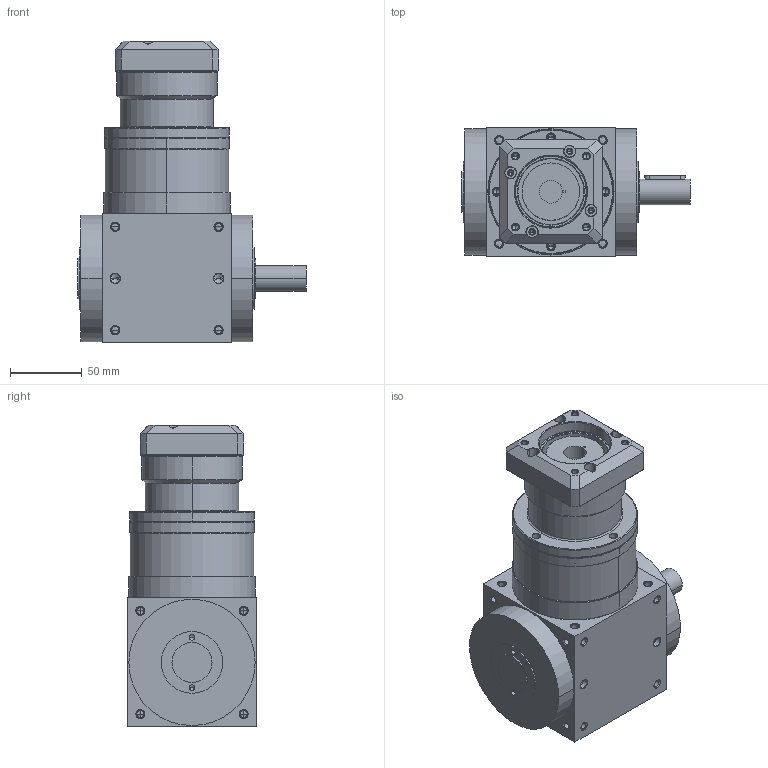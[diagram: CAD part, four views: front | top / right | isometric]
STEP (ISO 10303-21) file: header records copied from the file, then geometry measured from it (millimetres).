
FILE_DESCRIPTION((''),'2;1');
FILE_NAME('ATB090FR12-P0405200304_ASM','2014-07-30T',('d01544'),('APEX'),'PRO/ENGINEER BY PARAMETRIC TECHNOLOGY CORPORATION, 2008410','PRO/ENGINEER BY PARAMETRIC TECHNOLOGY CORPORATION, 2008410','');
FILE_SCHEMA(('CONFIG_CONTROL_DESIGN'));
Length unit declared in the file: millimetre
Products named in the file (5): ATBFR1-HOUSING-2-4; P1820400001; P0226400001; P0405200304; ATB090FR12-P0405200304_ASM
Assembly tree (4 placements, depth 2):
  ATB090FR12-P0405200304_ASM
    ATBFR1-HOUSING-2-4
    P1820400001
    P0226400001
    P0405200304
Bounding box: 159 x 90 x 210.5 mm (x, y, z)
Volume: 1366007.3 mm3; surface area: 171941.8 mm2
Topology: 4 solids, 41 shells, 746 faces, 1837 edges, 1085 vertices
Faces by surface type: cylinder 332, cone 258, plane 102, torus 46, bspline 8
Entity records: 22493 total; most frequent: CARTESIAN_POINT 4855, DIRECTION 3971, ORIENTED_EDGE 3346, EDGE_CURVE 1747, AXIS2_PLACEMENT_3D 1663, VERTEX_POINT 1085, CIRCLE 908, EDGE_LOOP 886
